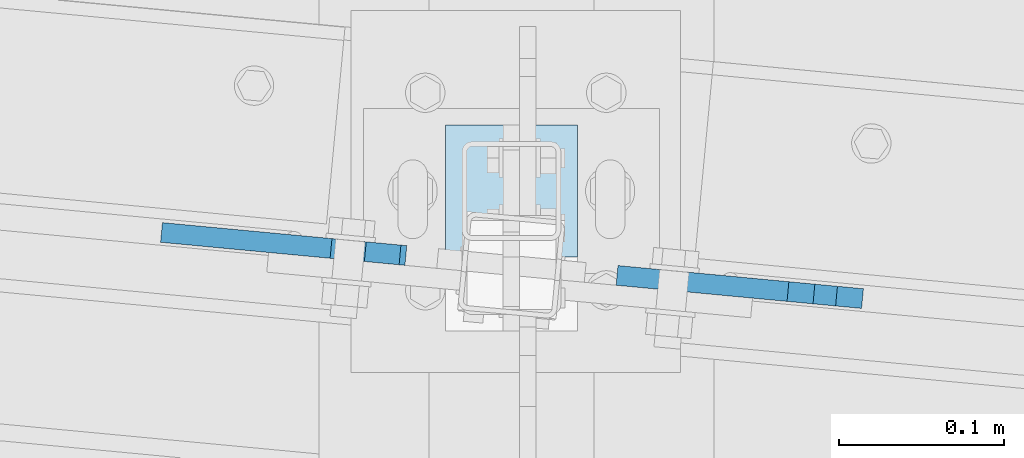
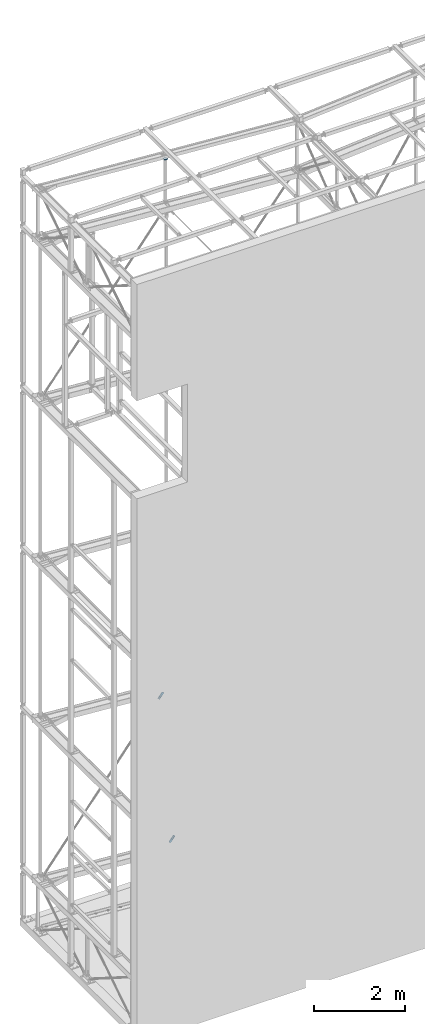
# One storey, part 153 of 271: 3 plates, 3 elements without a shape of their own.
"""IFC2X3 building model written with IfcOpenShell, lengths in millimetres."""

import ifcopenshell
import ifcopenshell.guid

model = None  # the IFC model being written
_history = None  # IfcOwnerHistory: only IFC2X3 demands one
_inside = {}  # id of a spatial element -> (the spatial element, [elements in it])
_under = {}  # id of a project, library or spatial element -> (it, [spatial elements below it])
_declared = {}  # id of a project -> (the project, [libraries it declares])
_typed = {}  # id of a type object -> (the type object, [elements of that type])
_made_of = {}  # id of a material, layer set ... -> (it, [elements and type objects made of it])


def new_model(schema):
    """Start an empty IFC model of exactly this schema.

    Asked for "IFC4X3", IfcOpenShell would pick the latest addendum, in which some entities
    have other attributes; the version numbers below select the first issue.
    IFC2X3 requires an IfcOwnerHistory on every rooted entity: one is made here for all.
    """
    global model, _history
    if schema == "IFC4X3":
        model = ifcopenshell.file(schema_version=(4, 3, 0, 0))
    else:
        model = ifcopenshell.file(schema=schema)
    _inside.clear()
    _under.clear()
    _declared.clear()
    _typed.clear()
    _made_of.clear()
    _history = None
    if model.schema == "IFC2X3":
        org = make("IfcOrganization", Name="unknown")
        user = make(
            "IfcPersonAndOrganization",
            ThePerson=make("IfcPerson", FamilyName="unknown"),
            TheOrganization=org,
        )
        app = make(
            "IfcApplication",
            ApplicationDeveloper=org,
            Version="unknown",
            ApplicationFullName="unknown",
            ApplicationIdentifier="unknown",
        )
        _history = make(
            "IfcOwnerHistory",
            OwningUser=user,
            OwningApplication=app,
            ChangeAction="ADDED",
            CreationDate=0,
        )
    return model


def make(cls, **values):
    """One entity of the class cls with the attributes given. An attribute that is None is left unset."""
    return model.create_entity(
        cls, **{name: value for name, value in values.items() if value is not None}
    )


def rooted(cls, **values):
    """An entity with a GlobalId (a new one), such as an element, a storey or a relation."""
    return make(cls, GlobalId=ifcopenshell.guid.new(), OwnerHistory=_history, **values)


def si_unit(unit_type, name, prefix=None):
    """IfcSIUnit, for example si_unit("LENGTHUNIT", "METRE", prefix="MILLI")."""
    return make("IfcSIUnit", UnitType=unit_type, Prefix=prefix, Name=name)


def assignment(units):
    """IfcUnitAssignment: the units of a project."""
    return None if units is None else make("IfcUnitAssignment", Units=units)


def point(xyz):
    """IfcCartesianPoint."""
    return None if xyz is None else make("IfcCartesianPoint", Coordinates=xyz)


def direction(xyz):
    """IfcDirection."""
    return None if xyz is None else make("IfcDirection", DirectionRatios=xyz)


def frame(location, z_axis=None, x_axis=None):
    """IfcAxis2Placement3D, a coordinate frame: its origin and axes. An axis left out is left unset."""
    return make(
        "IfcAxis2Placement3D",
        Location=point(location),
        Axis=direction(z_axis),
        RefDirection=direction(x_axis),
    )


def origin_with_axes():
    """The frame at (0, 0, 0) with the z axis (0, 0, 1) and the x axis (1, 0, 0) written out."""
    return frame((0.0, 0.0, 0.0), z_axis=(0.0, 0.0, 1.0), x_axis=(1.0, 0.0, 0.0))


def place(relative_to, where):
    """IfcLocalPlacement: puts the frame where relative to a parent placement (None: the world)."""
    return make(
        "IfcLocalPlacement", PlacementRelTo=relative_to, RelativePlacement=where
    )


def context(
    kind, dimensions, precision=None, world=None, true_north=None, identifier=None
):
    """IfcGeometricRepresentationContext, for example the 3D "Model" context."""
    return make(
        "IfcGeometricRepresentationContext",
        ContextIdentifier=identifier,
        ContextType=kind,
        CoordinateSpaceDimension=dimensions,
        Precision=precision,
        WorldCoordinateSystem=world,
        TrueNorth=true_north,
    )


def subcontext(parent, identifier, kind, view, scale=None):
    """IfcGeometricRepresentationSubContext, for example "Body" below "Model"."""
    return make(
        "IfcGeometricRepresentationSubContext",
        ContextIdentifier=identifier,
        ContextType=kind,
        ParentContext=parent,
        TargetScale=scale,
        TargetView=view,
    )


def project(units=None, contexts=None):
    """IfcProject with its units and contexts."""
    return rooted(
        "IfcProject",
        Name="project",
        RepresentationContexts=contexts,
        UnitsInContext=assignment(units),
    )


def spatial(cls, under=None, at=None, **own):
    """A site, building, storey or space (cls), placed at a placement, below another one or the project."""
    s = rooted(cls, ObjectPlacement=at, **own)
    if under is not None:
        _under.setdefault(under.id(), (under, []))[1].append(s)
    return s


def polyline(points):
    """IfcPolyline through the points."""
    return make("IfcPolyline", Points=[point(p) for p in points])


def outline(outer, holes=None, kind="AREA"):
    """IfcArbitraryClosedProfileDef: a profile drawn as a closed curve; with holes, ...WithVoids."""
    if holes is None:
        return make("IfcArbitraryClosedProfileDef", ProfileType=kind, OuterCurve=outer)
    return make(
        "IfcArbitraryProfileDefWithVoids",
        ProfileType=kind,
        OuterCurve=outer,
        InnerCurves=holes,
    )


def extrude(swept, where, along, depth):
    """IfcExtrudedAreaSolid: the profile swept, set in the frame where, extruded along a direction by depth."""
    return make(
        "IfcExtrudedAreaSolid",
        SweptArea=swept,
        Position=where,
        ExtrudedDirection=direction(along),
        Depth=depth,
    )


def shape(context_of_items, identifier, shape_type, items):
    """IfcShapeRepresentation: the items that make up one representation, for example the "Body"."""
    return make(
        "IfcShapeRepresentation",
        ContextOfItems=context_of_items,
        RepresentationIdentifier=identifier,
        RepresentationType=shape_type,
        Items=items,
    )


def material(Name=None, Category=None):
    """IfcMaterial."""
    return make("IfcMaterial", Name=Name, Category=Category)


def made_of(thing, what):
    """Note that an element or type object is made of a material, layer set ...; save() writes the relation."""
    if what is not None:
        _made_of.setdefault(what.id(), (what, []))[1].append(thing)
    return thing


def type_object(cls, material=None, **own):
    """A type object (cls), such as IfcWallType, which elements share."""
    return made_of(rooted(cls, **own), material)


def element(
    cls,
    number,
    at=None,
    inside=None,
    cuts=None,
    type_object=None,
    material=None,
    context=None,
    identifier="Body",
    shape_type=None,
    held_by="IfcProductDefinitionShape",
    body=None,
    shapes=None,
    **own,
):
    """One element of the class cls, such as IfcWall. Its Tag is "e" and its number.

    at: its placement. inside: the storey or other place that contains it. cuts: it is an
    opening in that element (IfcRelVoidsElement). A single representation is given by context,
    identifier, shape_type and body (its items); several are given by shapes. held_by: the class
    of the entity that holds the representations. save() writes the other relations.
    """
    e = rooted(cls, Tag="e%d" % number, ObjectPlacement=at, **own)
    if body is not None:
        shapes = [shape(context, identifier, shape_type, body)]
    if shapes is not None:
        e.Representation = make(held_by, Representations=shapes)
    if inside is not None:
        _inside.setdefault(inside.id(), (inside, []))[1].append(e)
    if cuts is not None:
        rooted(
            "IfcRelVoidsElement", RelatingBuildingElement=cuts, RelatedOpeningElement=e
        )
    if type_object is not None:
        _typed.setdefault(type_object.id(), (type_object, []))[1].append(e)
    return made_of(e, material)


def aggregate(whole, parts):
    """IfcRelAggregates: a whole, such as a stair, and the parts it consists of."""
    return rooted("IfcRelAggregates", RelatingObject=whole, RelatedObjects=parts)


def save(model, path):
    """Write the relations noted so far, then the file.

    IfcRelAggregates (storeys below a building ...), IfcRelContainedInSpatialStructure (elements
    in a storey), IfcRelDefinesByType, IfcRelAssociatesMaterial and IfcRelDeclares: one each for
    every whole, place, type object, material and project.
    """
    for whole, parts in _under.values():
        aggregate(whole, parts)
    for where, things in _inside.values():
        rooted(
            "IfcRelContainedInSpatialStructure",
            RelatedElements=things,
            RelatingStructure=where,
        )
    for kind, things in _typed.values():
        rooted("IfcRelDefinesByType", RelatedObjects=things, RelatingType=kind)
    for what, things in _made_of.values():
        rooted("IfcRelAssociatesMaterial", RelatedObjects=things, RelatingMaterial=what)
    for by, libraries in _declared.values():
        rooted("IfcRelDeclares", RelatingContext=by, RelatedDefinitions=libraries)
    model.write(path)


model = new_model("IFC2X3")

# Units and contexts
model_context = context("Model", 3, precision=1e-05, world=origin_with_axes())
body_context = subcontext(model_context, "Body", "Model", "MODEL_VIEW")
ifc_project = project(units=[si_unit("LENGTHUNIT", "METRE", prefix="MILLI"), si_unit("AREAUNIT", "SQUARE_METRE"), si_unit("VOLUMEUNIT", "CUBIC_METRE"), si_unit("MASSUNIT", "GRAM", prefix="KILO"), si_unit("TIMEUNIT", "SECOND"), si_unit("PLANEANGLEUNIT", "RADIAN"), si_unit("SOLIDANGLEUNIT", "STERADIAN"), si_unit("THERMODYNAMICTEMPERATUREUNIT", "DEGREE_CELSIUS"), si_unit("LUMINOUSINTENSITYUNIT", "LUMEN")], contexts=[model_context])

# Site, building, storey
site_placement = place(None, origin_with_axes())
site = spatial("IfcSite", under=ifc_project, at=site_placement, Name="Undefined", CompositionType="ELEMENT")
building_placement = place(site_placement, origin_with_axes())
building = spatial("IfcBuilding", under=site, at=building_placement, Name="Undefined", CompositionType="ELEMENT")
storey_placement = place(building_placement, origin_with_axes())
storey = spatial("IfcBuildingStorey", under=building, at=storey_placement, Name="Undefined", CompositionType="ELEMENT", Elevation=0.0)

# Assembly, plate
assembly_1_placement = place(storey_placement, origin_with_axes())
assembly_1 = element("IfcElementAssembly", 1, at=assembly_1_placement, inside=storey, AssemblyPlace="NOTDEFINED", PredefinedType="RIGID_FRAME")
ifc_material = material(Name="STEEL/S355JR")
plate_type_1 = type_object("IfcPlateType", Name="BL12*56", PredefinedType="NOTDEFINED")
plate_1_placement = place(assembly_1_placement, frame((3277.79825386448, 3994.80607873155, 1469.68903273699), z_axis=(0.0939661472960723, 0.995575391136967, 6.10312016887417e-05), x_axis=(-0.982298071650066, 0.0927229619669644, -0.162766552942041)))
plate_1 = element("IfcPlate", 2, at=plate_1_placement, type_object=plate_type_1, material=ifc_material, Name="BLACHA", ObjectType="BL12*56", context=body_context, shape_type="SweptSolid", body=[
    extrude(outline(polyline([(0.0, 0.0), (21.2132034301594, 1.09139364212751e-11), (39.5647087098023, 18.3515052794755), (39.5647087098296, 39.5647087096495), (-87.0074157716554, 166.136810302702), (-100.795997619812, 152.348236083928), (-30.0853214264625, 81.6375503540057), (-42.0728530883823, 69.6500167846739), (-112.783531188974, 140.36070251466), (-126.57211303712, 126.57211303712), (0.0, 0.0)])), frame((0.0, 0.0, -6.0), z_axis=(0.0, 0.0, 1.0), x_axis=(1.0, 0.0, 0.0)), (0.0, 0.0, 1.0), 12.0),
])
aggregate(assembly_1, [plate_1])

assembly_2_placement = place(storey_placement, origin_with_axes())
assembly_2 = element("IfcElementAssembly", 3, at=assembly_2_placement, inside=storey, AssemblyPlace="NOTDEFINED", PredefinedType="RIGID_FRAME")
plate_2_placement = place(assembly_2_placement, frame((3058.77668838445, 4015.4596785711, 5577.31653844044), z_axis=(0.0938759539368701, 0.995583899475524, -6.61630780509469e-05), x_axis=(0.981354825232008, -0.0925230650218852, 0.16847014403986)))
plate_2 = element("IfcPlate", 4, at=plate_2_placement, type_object=plate_type_1, material=ifc_material, Name="BLACHA", ObjectType="BL12*56", context=body_context, shape_type="SweptSolid", body=[
    extrude(outline(polyline([(0.0, 0.0), (21.2132034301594, 1.09139364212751e-11), (39.5644226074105, 18.3512210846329), (39.5644226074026, 39.5644226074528), (-87.0076904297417, 166.136535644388), (-100.796272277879, 152.347961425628), (-30.0855941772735, 81.6372756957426), (-42.0728530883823, 69.6500167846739), (-112.783531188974, 140.36070251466), (-126.57211303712, 126.57211303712), (0.0, 0.0)])), frame((0.0, 0.0, -6.0), z_axis=(0.0, 0.0, 1.0), x_axis=(1.0, 0.0, 0.0)), (0.0, 0.0, 1.0), 12.0),
])
aggregate(assembly_2, [plate_2])

assembly_3_placement = place(storey_placement, origin_with_axes())
assembly_3 = element("IfcElementAssembly", 5, at=assembly_3_placement, inside=storey, AssemblyPlace="NOTDEFINED", PredefinedType="RIGID_FRAME")
plate_type_2 = type_object("IfcPlateType", Name="BL8*80", PredefinedType="NOTDEFINED")
plate_3_placement = place(assembly_3_placement, frame((3208.37568709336, 4010.32498425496, 19897.399999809), z_axis=(0.0, 0.0, 1.0), x_axis=(0.0, 1.0, 0.0)))
plate_3 = element("IfcPlate", 6, at=plate_3_placement, type_object=plate_type_2, material=ifc_material, Name="BLACHA", ObjectType="BL8*80", context=body_context, shape_type="SweptSolid", body=[
    extrude(outline(polyline([(0.0, 0.0), (80.0, 0.0), (80.0, 80.0), (0.0, 80.0), (0.0, 0.0)])), frame((0.0, 0.0, -4.0), z_axis=(0.0, 0.0, 1.0), x_axis=(1.0, 0.0, 0.0)), (0.0, 0.0, 1.0), 8.0),
])
aggregate(assembly_3, [plate_3])

save(model, "model.ifc")
